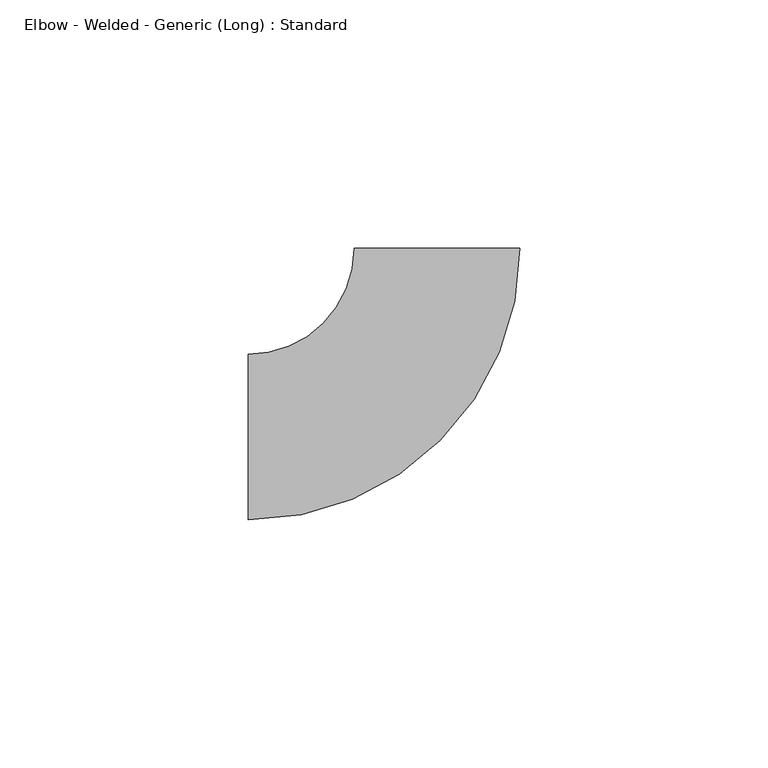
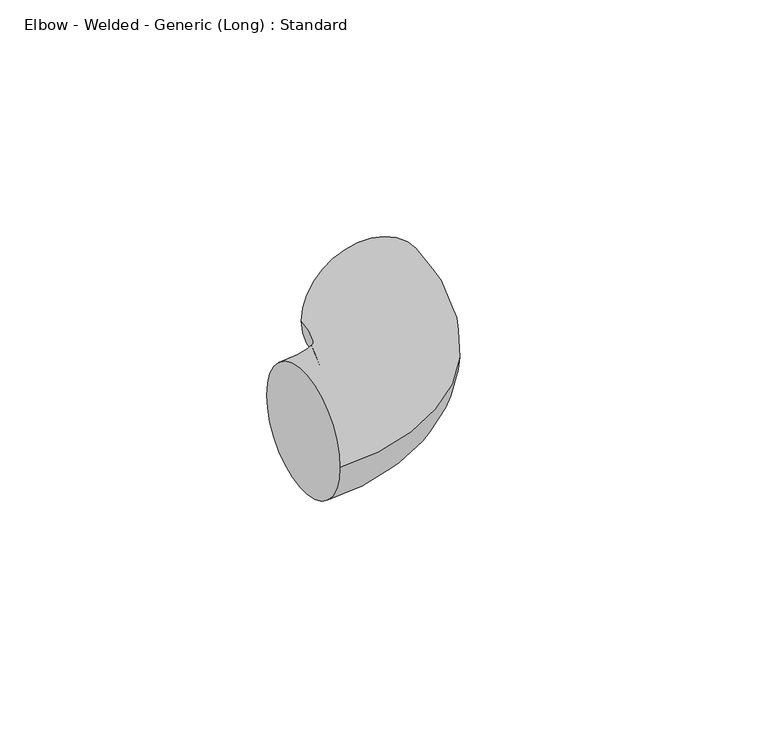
"""IFC4 building model written with IfcOpenShell, lengths in millimetres: pipe fitting geometry, Elbow - Welded - Generic (Long) : Standard."""

from ifc_helpers import new_model, si_unit, point, frame, origin, place, context, project, spatial, circle_curve, ellipse_curve, trimmed, source, transform, mapped, element, save
from ifc_brep_helpers import plane_surface, revolved_surface, advanced_brep


def elbow_welded_generic_long_standard_4056d511(model_context):
    return source(origin(), model_context, "Body", "AdvancedBrep", [
        advanced_brep(
        [(-38.1, -16.66875, 0.0), (-38.1, 16.66875, 0.0), (16.6553653, 38.105853, 0.0), (-16.6821327, 38.0941423, 0.0)],
        [
            (0, 1, circle_curve(frame((-38.1, 0.0, 0.0), z_axis=(-1.0, 0.0, 0.0), x_axis=(0.0, 1.0, 0.0)), 16.66875)),
            (1, 0, circle_curve(frame((-38.1, 0.0, 0.0), z_axis=(-1.0, 0.0, 0.0), x_axis=(0.0, 1.0, 0.0)), 16.66875)),
            (2, 3, circle_curve(frame((-0.0133837, 38.0999976, 0.0), z_axis=(-0.00035127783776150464, 0.9999999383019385, 0.0), x_axis=(-0.9999999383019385, -0.00035127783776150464, 0.0)), 16.66875)),
            (3, 2, circle_curve(frame((-0.0133837, 38.0999976, 0.0), z_axis=(-0.00035127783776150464, 0.9999999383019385, 0.0), x_axis=(-0.9999999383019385, -0.00035127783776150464, 0.0)), 16.66875)),
            (3, 1, circle_curve(frame((-38.1, 38.0866187, 0.0), z_axis=(0.0, 0.0, -1.0), x_axis=(0.0, -1.0, 0.0)), 21.4178687)),
            (0, 2, circle_curve(frame((-38.1, 38.0866187, 0.0), z_axis=(0.0, 0.0, 1.0), x_axis=(0.0, -1.0, 0.0)), 54.7553687)),
        ],
        [
            plane_surface(frame((-38.1, 0.0, 0.0), z_axis=(-1.0, 0.0, 0.0), x_axis=(0.0, 0.0, 1.0))),
            plane_surface(frame((-0.0133837, 38.0999976, 0.0), z_axis=(-0.0003512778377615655, 0.9999999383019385, 0.0), x_axis=(0.0, 0.0, 1.0))),
            revolved_surface(trimmed(ellipse_curve(frame((-38.1, 0.0, 0.0), z_axis=(-1.0, 0.0, 0.0), x_axis=(0.0, 1.0, 0.0)), 16.66875, 16.66875), [point((-38.1, -16.66875, 0.0))], [point((-38.1, 16.66875, 0.0))], True, "CARTESIAN"), (-38.1, 38.0866187, 0.0), (0.0, 0.0, 1.0)),
            revolved_surface(trimmed(ellipse_curve(frame((-38.1, 0.0, 0.0), z_axis=(-1.0, 0.0, 0.0), x_axis=(0.0, 1.0, 0.0)), 16.66875, 16.66875), [point((-38.1, 16.66875, 0.0))], [point((-38.1, -16.66875, 0.0))], True, "CARTESIAN"), (-38.1, 38.0866187, 0.0), (0.0, 0.0, 1.0)),
        ],
        [
            (0, [[1, 2]]),
            (1, [[3, 4]]),
            (2, [[5, -1, 6, -4]]),
            (3, [[-6, -2, -5, -3]]),
        ],
    ),
    ])


if __name__ == "__main__":
    model = new_model("IFC4")
    model_context = context("Model", 3, world=origin())
    ifc_project = project(units=[si_unit("LENGTHUNIT", "METRE", prefix="MILLI")], contexts=[model_context])
    site = spatial("IfcSite", under=ifc_project)
    building = spatial("IfcBuilding", under=site)
    placement = place(None, origin())
    elbow_welded_generic_long_standard_shape = elbow_welded_generic_long_standard_4056d511(model_context)
    element("IfcPipeFitting", 1, ObjectType="Elbow - Welded - Generic (Long) : Standard", at=placement, inside=building, context=model_context, shape_type="MappedRepresentation", body=[
        mapped(elbow_welded_generic_long_standard_shape, transform((0.0, 0.0, 0.0), x_axis=(1.0, 0.0, 0.0), y_axis=(0.0, 1.0, 0.0), z_axis=(0.0, 0.0, 1.0))),
    ])
    save(model, "model.ifc")
